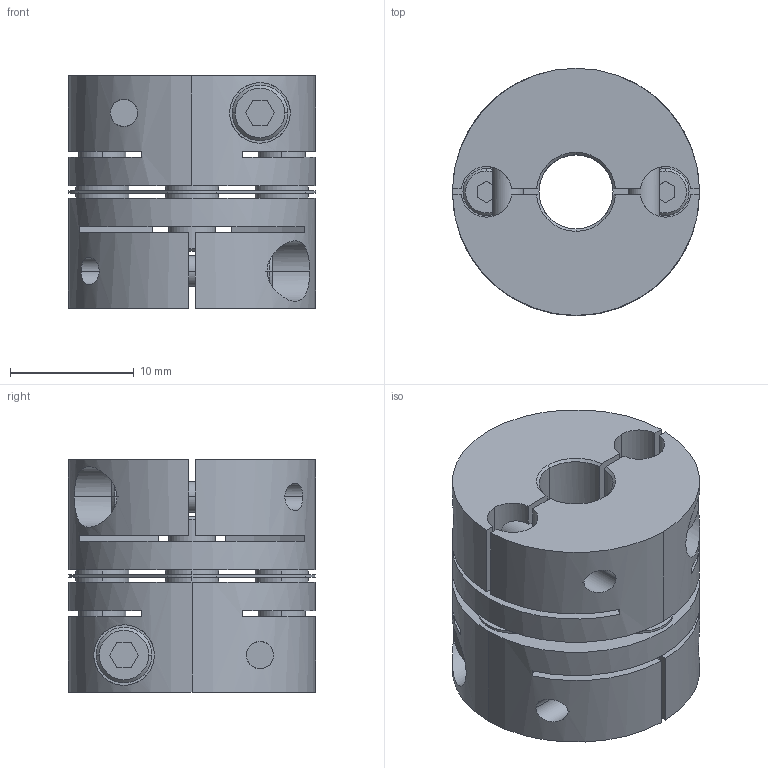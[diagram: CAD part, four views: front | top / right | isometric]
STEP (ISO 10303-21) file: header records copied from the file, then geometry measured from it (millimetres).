
FILE_DESCRIPTION((''),'2;1');
FILE_NAME('LAS-20C-6×7.stp','2011-08-10T08:57:06',(''),(''),'AutoCAD STEP 2000i','AutoCAD 2000i',', , ');
FILE_SCHEMA(('CONFIG_CONTROL_DESIGN'));
Length unit declared in the file: millimetre
Products named in the file (5): LAS-20C-4×4; 忣兜1; LA-2002-D04-1; LA-2002-D04; LAS20-ITA
Assembly tree (4 placements, depth 2):
  LAS-20C-4×4
    忣兜1
    LA-2002-D04-1
    LA-2002-D04
    LAS20-ITA
Bounding box: 20 x 20 x 18.8 mm (x, y, z)
Volume: 4426.7 mm3; surface area: 4513 mm2
Topology: 1 solids, 1 shells, 236 faces, 624 edges, 408 vertices
Faces by surface type: plane 112, cylinder 96, cone 28
Entity records: 8203 total; most frequent: CARTESIAN_POINT 2009, DIRECTION 1302, ORIENTED_EDGE 1248, EDGE_CURVE 624, AXIS2_PLACEMENT_3D 477, VERTEX_POINT 408, VECTOR 348, LINE 348
